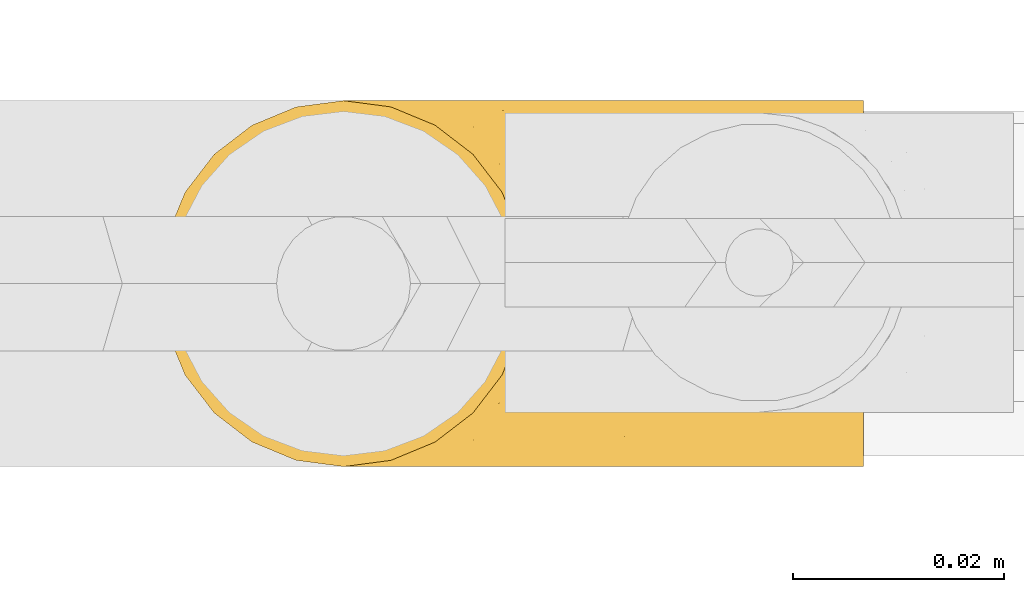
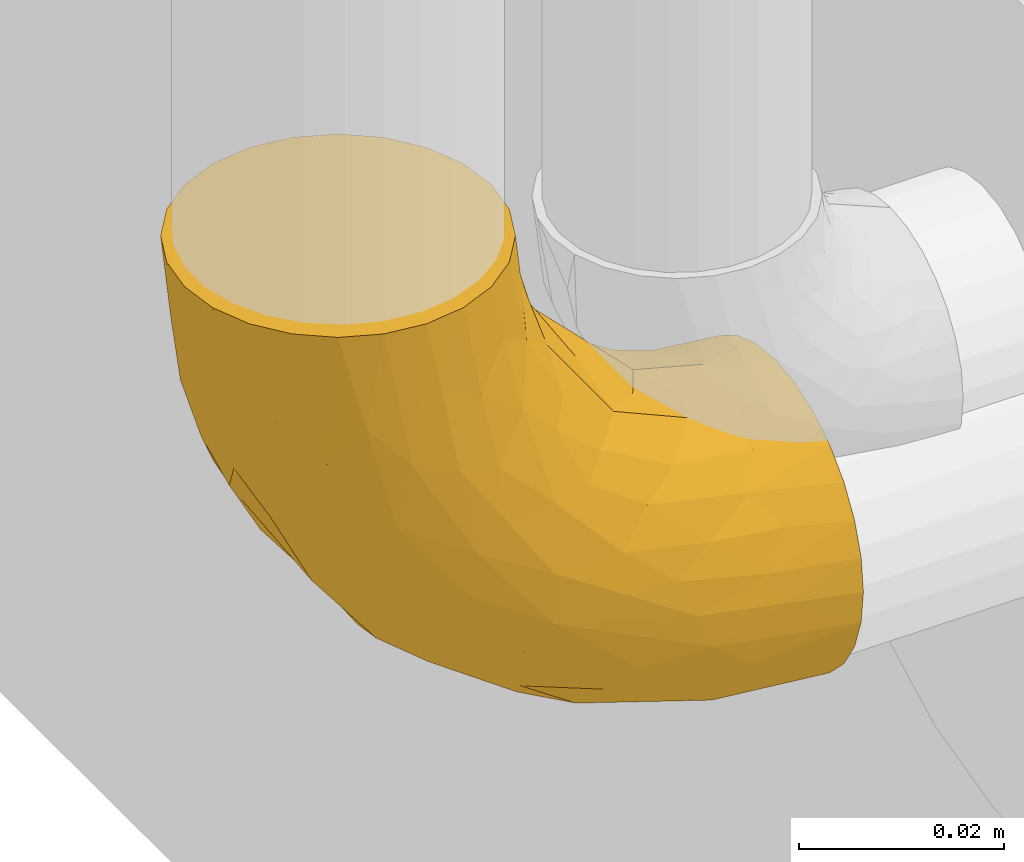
# One storey, part 5 of 30: 1 covering.
"""IFC2X3 building model written with IfcOpenShell, lengths in metres."""

from ifc_helpers import new_model, entity, si_unit, converted_unit, derived_unit, direction, frame, origin, place, context, subcontext, project, spatial, faceted_brep, material, type_object, element, save


model = new_model("IFC2X3")

# Units and contexts
model_context = context("Model", 3, precision=1e-05, world=origin(), true_north=direction((6.123031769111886e-17, 1.0)))
body_context = subcontext(model_context, "Body", "Model", "MODEL_VIEW")
ifc_project = project(units=[si_unit("LENGTHUNIT", "METRE"), si_unit("AREAUNIT", "SQUARE_METRE"), si_unit("VOLUMEUNIT", "CUBIC_METRE"), converted_unit("PLANEANGLEUNIT", "DEGREE", entity("IfcPlaneAngleMeasure", 0.017453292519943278), si_unit("PLANEANGLEUNIT", "RADIAN"), dimensions=[0, 0, 0, 0, 0, 0, 0]), si_unit("MASSUNIT", "GRAM", prefix="KILO"), derived_unit("MASSDENSITYUNIT", [(si_unit("MASSUNIT", "GRAM", prefix="KILO"), 1), (si_unit("LENGTHUNIT", "METRE"), -3)]), derived_unit("IONCONCENTRATIONUNIT", [(si_unit("MASSUNIT", "GRAM", prefix="KILO"), 1), (si_unit("LENGTHUNIT", "METRE"), -3)]), derived_unit("MOMENTOFINERTIAUNIT", [(si_unit("LENGTHUNIT", "METRE"), 4)]), si_unit("TIMEUNIT", "SECOND"), si_unit("FREQUENCYUNIT", "HERTZ"), si_unit("THERMODYNAMICTEMPERATUREUNIT", "DEGREE_CELSIUS"), derived_unit("THERMALTRANSMITTANCEUNIT", [(si_unit("MASSUNIT", "GRAM", prefix="KILO"), 1), (si_unit("THERMODYNAMICTEMPERATUREUNIT", "KELVIN"), -1), (si_unit("TIMEUNIT", "SECOND"), -3)]), derived_unit("THERMALCONDUCTANCEUNIT", [(si_unit("MASSUNIT", "GRAM", prefix="KILO"), 1), (si_unit("THERMODYNAMICTEMPERATUREUNIT", "KELVIN"), -1), (si_unit("TIMEUNIT", "SECOND"), -3), (si_unit("LENGTHUNIT", "METRE"), 1)]), derived_unit("VOLUMETRICFLOWRATEUNIT", [(si_unit("LENGTHUNIT", "METRE", prefix="DECI"), 3), (si_unit("TIMEUNIT", "SECOND"), -1)]), derived_unit("MASSFLOWRATEUNIT", [(si_unit("MASSUNIT", "GRAM", prefix="KILO"), 1), (si_unit("TIMEUNIT", "SECOND"), -1)]), derived_unit("ROTATIONALFREQUENCYUNIT", [(si_unit("TIMEUNIT", "SECOND"), -1)]), si_unit("ELECTRICCURRENTUNIT", "AMPERE"), si_unit("ELECTRICVOLTAGEUNIT", "VOLT"), si_unit("POWERUNIT", "WATT"), si_unit("FORCEUNIT", "NEWTON", prefix="KILO"), si_unit("ILLUMINANCEUNIT", "LUX"), si_unit("LUMINOUSFLUXUNIT", "LUMEN"), si_unit("LUMINOUSINTENSITYUNIT", "CANDELA"), si_unit("ENERGYUNIT", "JOULE"), derived_unit("USERDEFINED", [(si_unit("MASSUNIT", "GRAM", prefix="KILO"), -1), (si_unit("LENGTHUNIT", "METRE"), -2), (si_unit("TIMEUNIT", "SECOND"), 3), (si_unit("LUMINOUSFLUXUNIT", "LUMEN"), 1)]), derived_unit("USERDEFINED", [(si_unit("MASSUNIT", "GRAM", prefix="KILO"), 1), (si_unit("TIMEUNIT", "SECOND"), -3), (si_unit("LENGTHUNIT", "METRE"), 3), (si_unit("ELECTRICCURRENTUNIT", "AMPERE"), -2)]), derived_unit("SOUNDPOWERUNIT", [(si_unit("MASSUNIT", "GRAM", prefix="KILO"), 1), (si_unit("TIMEUNIT", "SECOND"), -3), (si_unit("LENGTHUNIT", "METRE"), 2)]), derived_unit("SOUNDPRESSUREUNIT", [(si_unit("MASSUNIT", "GRAM", prefix="KILO"), 1), (si_unit("LENGTHUNIT", "METRE"), -1), (si_unit("TIMEUNIT", "SECOND"), -2)]), derived_unit("LINEARVELOCITYUNIT", [(si_unit("LENGTHUNIT", "METRE"), 1), (si_unit("TIMEUNIT", "SECOND"), -1)]), si_unit("PRESSUREUNIT", "PASCAL"), derived_unit("USERDEFINED", [(si_unit("MASSUNIT", "GRAM", prefix="KILO"), 1), (si_unit("LENGTHUNIT", "METRE"), -2), (si_unit("TIMEUNIT", "SECOND"), -2)]), derived_unit("LINEARFORCEUNIT", [(si_unit("MASSUNIT", "GRAM", prefix="KILO"), 1), (si_unit("TIMEUNIT", "SECOND"), -2)]), derived_unit("PLANARFORCEUNIT", [(si_unit("MASSUNIT", "GRAM", prefix="KILO"), 1), (si_unit("LENGTHUNIT", "METRE"), -1), (si_unit("TIMEUNIT", "SECOND"), -2)]), derived_unit("SPECIFICHEATCAPACITYUNIT", [(si_unit("THERMODYNAMICTEMPERATUREUNIT", "KELVIN"), -1), (si_unit("LENGTHUNIT", "METRE"), 2), (si_unit("TIMEUNIT", "SECOND"), -2)]), derived_unit("HEATFLUXDENSITYUNIT", [(si_unit("MASSUNIT", "GRAM", prefix="KILO"), 1), (si_unit("TIMEUNIT", "SECOND"), -3)]), derived_unit("HEATINGVALUEUNIT", [(si_unit("LENGTHUNIT", "METRE"), 2), (si_unit("TIMEUNIT", "SECOND"), -2)]), derived_unit("VAPORPERMEABILITYUNIT", [(si_unit("LENGTHUNIT", "METRE"), -1), (si_unit("TIMEUNIT", "SECOND"), 1)]), derived_unit("DYNAMICVISCOSITYUNIT", [(si_unit("MASSUNIT", "GRAM", prefix="KILO"), 1), (si_unit("TIMEUNIT", "SECOND"), -1), (si_unit("LENGTHUNIT", "METRE"), -1)]), derived_unit("THERMALEXPANSIONCOEFFICIENTUNIT", [(si_unit("THERMODYNAMICTEMPERATUREUNIT", "KELVIN"), -1)]), derived_unit("MODULUSOFELASTICITYUNIT", [(si_unit("MASSUNIT", "GRAM", prefix="KILO"), 1), (si_unit("LENGTHUNIT", "METRE"), -1), (si_unit("TIMEUNIT", "SECOND"), -2)]), derived_unit("ISOTHERMALMOISTURECAPACITYUNIT", [(si_unit("MASSUNIT", "GRAM", prefix="KILO"), -1), (si_unit("LENGTHUNIT", "METRE"), 3)]), derived_unit("MOISTUREDIFFUSIVITYUNIT", [(si_unit("TIMEUNIT", "SECOND"), -1), (si_unit("LENGTHUNIT", "METRE"), 2)]), derived_unit("MASSPERLENGTHUNIT", [(si_unit("MASSUNIT", "GRAM", prefix="KILO"), 1), (si_unit("LENGTHUNIT", "METRE"), -1)]), derived_unit("THERMALRESISTANCEUNIT", [(si_unit("MASSUNIT", "GRAM", prefix="KILO"), -1), (si_unit("TIMEUNIT", "SECOND"), 3), (si_unit("THERMODYNAMICTEMPERATUREUNIT", "KELVIN"), 1)]), derived_unit("ACCELERATIONUNIT", [(si_unit("LENGTHUNIT", "METRE"), 1), (si_unit("TIMEUNIT", "SECOND"), -2)]), derived_unit("ANGULARVELOCITYUNIT", [(si_unit("TIMEUNIT", "SECOND"), -1), (si_unit("PLANEANGLEUNIT", "RADIAN"), 1)]), derived_unit("LINEARSTIFFNESSUNIT", [(si_unit("MASSUNIT", "GRAM", prefix="KILO"), 1), (si_unit("TIMEUNIT", "SECOND"), -2)]), derived_unit("WARPINGCONSTANTUNIT", [(si_unit("LENGTHUNIT", "METRE"), 6)]), derived_unit("LINEARMOMENTUNIT", [(si_unit("MASSUNIT", "GRAM", prefix="KILO"), 1), (si_unit("LENGTHUNIT", "METRE"), 1), (si_unit("TIMEUNIT", "SECOND"), -2)]), derived_unit("TORQUEUNIT", [(si_unit("MASSUNIT", "GRAM", prefix="KILO"), 1), (si_unit("LENGTHUNIT", "METRE"), 2), (si_unit("TIMEUNIT", "SECOND"), -2)])], contexts=[model_context])

# Site, building, storey
site_placement = place(None, origin())
site = spatial("IfcSite", under=ifc_project, at=site_placement, Name="Default", CompositionType="ELEMENT")
building_placement = place(site_placement, origin())
building = spatial("IfcBuilding", under=site, at=building_placement, CompositionType="ELEMENT")
storey_placement = place(building_placement, origin())
storey = spatial("IfcBuildingStorey", under=building, at=storey_placement, Name="Niveau 0", CompositionType="ELEMENT", Elevation=-1.949160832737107e-14)

# Covering
ifc_material = material(Name="Matériau du rendu 255-255-255")
covering_type = type_object("IfcCoveringType", Name="Isolation des canalisations:Par défaut", PredefinedType="INSULATION")
covering_placement = place(storey_placement, frame((-20.93528131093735, 1.3561078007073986, -0.36410472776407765)))
element("IfcCovering", 1, at=covering_placement, inside=storey, type_object=covering_type, material=ifc_material, Name="Isolation des canalisations:Par défaut", ObjectType="Isolation des canalisations:Par défaut", PredefinedType="INSULATION", context=body_context, shape_type="Brep", body=[
    faceted_brep([(0.06824527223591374, 0.005382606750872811, -0.061715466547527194), (0.06824527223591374, 0.008130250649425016, -0.06446206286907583), (0.06824527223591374, 0.011419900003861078, -0.0665282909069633), (0.06824527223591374, 0.015086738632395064, -0.06781077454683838), (0.06824527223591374, 0.018945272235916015, -0.06824527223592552), (0.06824527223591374, 0.022807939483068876, -0.06780983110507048), (0.06824527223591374, 0.026475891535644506, -0.06652576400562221), (0.06824527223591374, 0.029765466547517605, -0.06445793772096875), (0.06824527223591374, 0.03251206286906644, -0.06171029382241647), (0.06824527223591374, 0.03457829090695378, -0.058420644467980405), (0.06824527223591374, 0.035860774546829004, -0.054753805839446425), (0.06824527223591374, 0.03629527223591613, -0.0508952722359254), (0.06824527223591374, 0.03585983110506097, -0.04703260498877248), (0.06824527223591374, 0.034575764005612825, -0.04336465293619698), (0.06824527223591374, 0.032507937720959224, -0.04007507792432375), (0.06824527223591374, 0.029760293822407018, -0.03732848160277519), (0.06824527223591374, 0.026470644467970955, -0.03526225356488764), (0.06824527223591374, 0.02280380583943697, -0.03397976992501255), (0.06824527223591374, 0.018945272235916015, -0.03354527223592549), (0.06824527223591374, 0.015082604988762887, -0.03398071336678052), (0.06824527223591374, 0.011414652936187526, -0.0352647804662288), (0.06824527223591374, 0.008125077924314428, -0.03733260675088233), (0.06824527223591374, 0.005378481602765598, -0.04008025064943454), (0.06824527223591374, 0.0033122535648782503, -0.0433699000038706), (0.06824527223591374, 0.0020297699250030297, -0.04703673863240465), (0.06824527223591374, 0.0015952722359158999, -0.05089527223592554), (0.06824527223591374, 0.0020307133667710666, -0.054757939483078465), (0.06824527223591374, 0.003314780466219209, -0.05842589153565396), (0.035704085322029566, 0.023435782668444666, -0.0015952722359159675), (0.03397081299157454, 0.02762027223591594, -0.0015952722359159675), (0.031213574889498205, 0.03121357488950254, -0.0015952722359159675), (0.02762027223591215, 0.033970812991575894, -0.0015952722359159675), (0.023435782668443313, 0.03570408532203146, -0.0015952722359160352), (0.018945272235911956, 0.03629527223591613, -0.0015952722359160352), (0.01445476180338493, 0.03570408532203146, -0.0015952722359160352), (0.010270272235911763, 0.033970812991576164, -0.0015952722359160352), (0.0066769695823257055, 0.03121357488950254, -0.0015952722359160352), (0.0039197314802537, 0.02762027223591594, -0.0015952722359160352), (0.0021864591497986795, 0.023435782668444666, -0.0015952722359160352), (0.0015952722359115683, 0.018945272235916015, -0.0015952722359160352), (0.0021864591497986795, 0.014454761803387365, -0.0015952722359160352), (0.0039197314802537, 0.010270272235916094, -0.0015952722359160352), (0.0066769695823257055, 0.006676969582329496, -0.0015952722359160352), (0.010270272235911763, 0.003919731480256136, -0.0015952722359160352), (0.01445476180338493, 0.0021864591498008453, -0.0015952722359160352), (0.018945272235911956, 0.0015952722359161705, -0.0015952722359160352), (0.023435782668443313, 0.0021864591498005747, -0.0015952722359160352), (0.02762027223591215, 0.003919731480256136, -0.0015952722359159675), (0.031213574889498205, 0.006676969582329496, -0.0015952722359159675), (0.03397081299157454, 0.010270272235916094, -0.0015952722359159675), (0.035704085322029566, 0.014454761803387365, -0.0015952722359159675), (0.03629527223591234, 0.018945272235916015, -0.0015952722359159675), (0.024367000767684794, 0.006555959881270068, -0.044610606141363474), (0.040880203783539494, 0.005439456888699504, -0.055206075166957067), (0.031240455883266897, 0.004103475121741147, -0.04662716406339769), (0.005317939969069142, 0.01574101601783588, -0.022635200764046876), (0.004958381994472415, 0.018945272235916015, -0.018502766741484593), (0.006668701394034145, 0.018945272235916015, -0.027101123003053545), (0.009728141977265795, 0.00907453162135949, -0.02642879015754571), (0.0157609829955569, 0.0072079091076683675, -0.03474610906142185), (0.014206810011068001, 0.005147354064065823, -0.0272488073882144), (0.00477606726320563, 0.012649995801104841, -0.017647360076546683), (0.0059874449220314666, 0.008689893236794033, -0.013004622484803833), (0.03372303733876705, 0.0022082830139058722, -0.042951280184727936), (0.033384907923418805, 0.0015952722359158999, -0.03645563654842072), (0.02490495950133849, 0.0019132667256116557, -0.03141249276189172), (0.05201300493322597, 0.007137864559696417, -0.06144561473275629), (0.03327606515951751, 0.00800033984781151, -0.05371291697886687), (0.017585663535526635, 0.0020764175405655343, -0.018347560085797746), (0.016675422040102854, 0.0034977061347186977, -0.026339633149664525), (0.03669274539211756, 0.014726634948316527, -0.059711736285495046), (0.052045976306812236, 0.013536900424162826, -0.06535510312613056), (0.040907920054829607, 0.010439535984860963, -0.05992934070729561), (0.010004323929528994, 0.005627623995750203, -0.017676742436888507), (0.04937897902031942, 0.0015952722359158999, -0.04714253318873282), (0.04138194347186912, 0.0015952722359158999, -0.041799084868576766), (0.013063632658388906, 0.0031065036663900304, -0.013167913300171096), (0.013097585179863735, 0.013931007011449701, -0.03768974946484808), (0.021058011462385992, 0.015117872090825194, -0.04805807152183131), (0.02491877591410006, 0.011641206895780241, -0.05009999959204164), (0.05549234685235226, 0.018945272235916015, -0.06570855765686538), (0.015418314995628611, 0.010347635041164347, -0.03837572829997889), (0.00810343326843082, 0.01328248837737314, -0.028042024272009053), (0.055995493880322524, 0.010029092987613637, -0.0645991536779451), (0.042739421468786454, 0.018945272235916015, -0.06317184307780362), (0.05979152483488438, 0.0015952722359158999, -0.04921371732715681), (0.051512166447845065, 0.001975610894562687, -0.05179267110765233), (0.05592114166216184, 0.004579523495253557, -0.05932311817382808), (0.024527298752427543, 0.0030418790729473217, -0.036967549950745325), (0.0564246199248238, 0.0028640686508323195, -0.056142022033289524), (0.020046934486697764, 0.004804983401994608, -0.036232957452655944), (0.04390302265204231, 0.003093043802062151, -0.05241841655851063), (0.028041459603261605, 0.0015952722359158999, -0.028458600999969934), (0.022698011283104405, 0.0015952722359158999, -0.02046156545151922), (0.05881212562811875, 0.0015952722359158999, -0.04901890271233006), (0.03192801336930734, 0.018945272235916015, -0.05594789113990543), (0.022537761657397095, 0.009051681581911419, -0.04575145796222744), (0.013892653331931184, 0.018945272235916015, -0.03791253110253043), (0.020626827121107, 0.0015952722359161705, -0.010049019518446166), (0.021116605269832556, 0.018945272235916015, -0.04872393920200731), (0.060126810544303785, 0.009148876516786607, -0.03562046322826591), (0.025545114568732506, 0.00238146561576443, -0.012762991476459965), (0.03816302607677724, 0.008176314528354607, -0.020812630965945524), (0.03369863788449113, 0.007611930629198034, -0.012286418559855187), (0.03585312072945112, 0.005320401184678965, -0.022511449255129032), (0.047583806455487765, 0.0019279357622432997, -0.04260303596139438), (0.05793604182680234, 0.002136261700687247, -0.04539970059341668), (0.051791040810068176, 0.00324715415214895, -0.04014164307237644), (0.02744829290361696, 0.001986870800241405, -0.022043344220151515), (0.0312463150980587, 0.004104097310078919, -0.0176025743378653), (0.05558856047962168, 0.01590243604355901, -0.031224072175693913), (0.06109218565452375, 0.014076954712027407, -0.0334490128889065), (0.059961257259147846, 0.018945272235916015, -0.03132557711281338), (0.045509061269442, 0.004444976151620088, -0.03422892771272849), (0.041544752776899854, 0.002253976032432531, -0.03727571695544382), (0.029493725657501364, 0.004675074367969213, -0.0088873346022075), (0.03852252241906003, 0.01525623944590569, -0.014357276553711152), (0.038514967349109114, 0.018945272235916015, -0.009879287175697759), (0.03659242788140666, 0.015925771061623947, -0.007585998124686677), (0.057971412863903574, 0.005932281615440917, -0.037997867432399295), (0.05019700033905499, 0.007500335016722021, -0.03304464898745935), (0.03603849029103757, 0.012735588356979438, -0.009229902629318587), (0.038175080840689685, 0.011387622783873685, -0.01677085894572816), (0.06050425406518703, 0.003758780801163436, -0.04176616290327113), (0.045253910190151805, 0.010632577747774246, -0.026739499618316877), (0.041414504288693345, 0.0064510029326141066, -0.027451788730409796), (0.05227027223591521, 0.018945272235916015, -0.029264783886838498), (0.04415845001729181, 0.015064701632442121, -0.023249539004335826), (0.04057576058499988, 0.018945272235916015, -0.017570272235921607), (0.03407046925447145, 0.0025144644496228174, -0.028875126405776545), (0.05464264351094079, 0.012455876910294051, -0.031890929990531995), (0.04949521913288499, 0.014233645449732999, -0.02826597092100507), (0.046423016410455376, 0.018945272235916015, -0.02341752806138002), (0.038700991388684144, 0.00404031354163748, -0.029179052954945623), (0.033698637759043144, 0.0302786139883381, -0.01228641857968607), (0.060126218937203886, 0.028736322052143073, -0.0356165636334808), (0.05796574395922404, 0.03195404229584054, -0.037991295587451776), (0.03659242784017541, 0.021964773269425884, -0.007585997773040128), (0.04759427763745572, 0.0359598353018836, -0.04259271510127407), (0.04138194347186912, 0.03629527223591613, -0.041799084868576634), (0.04154972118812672, 0.03562917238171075, -0.03724696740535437), (0.050196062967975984, 0.030383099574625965, -0.033036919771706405), (0.04141450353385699, 0.0314395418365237, -0.027451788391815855), (0.03870907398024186, 0.03385103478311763, -0.029189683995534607), (0.03585365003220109, 0.03257390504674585, -0.02252106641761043), (0.06109515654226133, 0.02380588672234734, -0.03344737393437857), (0.03407046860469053, 0.03537608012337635, -0.028875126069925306), (0.027448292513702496, 0.035903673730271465, -0.02204334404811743), (0.031246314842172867, 0.03378644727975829, -0.017602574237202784), (0.025545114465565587, 0.03550907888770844, -0.012762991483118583), (0.020626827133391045, 0.03629527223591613, -0.01004901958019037), (0.06049677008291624, 0.034129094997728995, -0.0417598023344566), (0.05793180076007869, 0.03575312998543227, -0.045394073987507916), (0.051777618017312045, 0.03464128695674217, -0.04013105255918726), (0.03603849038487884, 0.025154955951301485, -0.009229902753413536), (0.029493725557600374, 0.03321547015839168, -0.008887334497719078), (0.04552472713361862, 0.03343785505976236, -0.034225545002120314), (0.038522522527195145, 0.022634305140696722, -0.014357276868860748), (0.04948512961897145, 0.02365546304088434, -0.028258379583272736), (0.04523640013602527, 0.027243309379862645, -0.026712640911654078), (0.044143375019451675, 0.0228202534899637, -0.023230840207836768), (0.05558905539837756, 0.02198481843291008, -0.031223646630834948), (0.05465211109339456, 0.02542902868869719, -0.031892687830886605), (0.03817508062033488, 0.026502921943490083, -0.016770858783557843), (0.059791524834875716, 0.03629527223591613, -0.04921371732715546), (0.05881212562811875, 0.03629527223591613, -0.04901890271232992), (0.04937897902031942, 0.03629527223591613, -0.04714253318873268), (0.022698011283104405, 0.03629527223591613, -0.02046156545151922), (0.028041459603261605, 0.03629527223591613, -0.028458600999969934), (0.03815555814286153, 0.02971725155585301, -0.020805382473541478), (0.033384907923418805, 0.03629527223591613, -0.03645563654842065), (0.014201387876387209, 0.03274603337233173, -0.027228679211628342), (0.015764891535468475, 0.030676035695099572, -0.03476363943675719), (0.009728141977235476, 0.028816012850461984, -0.026428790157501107), (0.005317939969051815, 0.022149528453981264, -0.022635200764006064), (0.0081034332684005, 0.02460805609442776, -0.02804202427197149), (0.013097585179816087, 0.023959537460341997, -0.037689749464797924), (0.04091580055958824, 0.027456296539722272, -0.059929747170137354), (0.052048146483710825, 0.024358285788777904, -0.06535408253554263), (0.036682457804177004, 0.02316674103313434, -0.05970534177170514), (0.04088029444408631, 0.032454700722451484, -0.05520108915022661), (0.031229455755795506, 0.03379273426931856, -0.04660600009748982), (0.043922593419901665, 0.034799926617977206, -0.05242173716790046), (0.0337578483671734, 0.03568426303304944, -0.04297076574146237), (0.01758332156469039, 0.03581412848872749, -0.018340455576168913), (0.01667542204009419, 0.034392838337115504, -0.02633963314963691), (0.02002725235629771, 0.03308122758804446, -0.03621599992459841), (0.013061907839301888, 0.034783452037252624, -0.013166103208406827), (0.004776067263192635, 0.025240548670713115, -0.01764736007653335), (0.05599323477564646, 0.02786657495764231, -0.06459558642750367), (0.005987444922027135, 0.02920065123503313, -0.013004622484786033), (0.015398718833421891, 0.027538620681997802, -0.0383518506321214), (0.010004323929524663, 0.032262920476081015, -0.01767674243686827), (0.05592223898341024, 0.03331443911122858, -0.05931818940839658), (0.05201579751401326, 0.030757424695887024, -0.06144180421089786), (0.05151520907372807, 0.03591577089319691, -0.051789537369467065), (0.040903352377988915, 0.030163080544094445, -0.057836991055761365), (0.02436700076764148, 0.03133458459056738, -0.044610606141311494), (0.056683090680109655, 0.03503855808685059, -0.0561668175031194), (0.02107082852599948, 0.022776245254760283, -0.04806993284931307), (0.024916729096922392, 0.026257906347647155, -0.05009283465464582), (0.024899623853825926, 0.035975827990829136, -0.031417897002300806), (0.02455161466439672, 0.034842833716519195, -0.03701879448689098), (0.022503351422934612, 0.02884064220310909, -0.04571403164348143), (0.031537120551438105, 0.028622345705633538, -0.0536555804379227)], [[[0, 1, 2, 3, 4, 5, 6, 7, 8, 9, 10, 11, 12, 13, 14, 15, 16, 17, 18, 19, 20, 21, 22, 23, 24, 25, 26, 27]], [[28, 29, 30, 31, 32, 33, 34, 35, 36, 37, 38, 39, 40, 41, 42, 43, 44, 45, 46, 47, 48, 49, 50, 51]], [[52, 53, 54]], [[55, 56, 57]], [[58, 59, 60]], [[61, 58, 62]], [[63, 64, 65]], [[61, 41, 40]], [[66, 53, 67]], [[68, 69, 65]], [[70, 71, 72]], [[62, 73, 42]], [[63, 74, 75, 64]], [[45, 44, 68]], [[69, 68, 76]], [[77, 78, 79]], [[42, 73, 43]], [[80, 4, 3]], [[58, 81, 59]], [[61, 55, 82]], [[71, 2, 83]], [[84, 71, 70]], [[83, 2, 1]], [[3, 71, 80]], [[71, 84, 80]], [[77, 55, 57]], [[2, 71, 3]], [[0, 66, 1]], [[26, 25, 85]], [[63, 86, 74]], [[66, 87, 53]], [[62, 42, 41]], [[63, 65, 88]], [[26, 86, 89]], [[40, 56, 55]], [[73, 60, 76]], [[83, 72, 71]], [[90, 59, 52]], [[40, 55, 61]], [[87, 66, 0]], [[1, 66, 83]], [[87, 0, 27]], [[72, 83, 66]], [[91, 89, 86]], [[53, 87, 91]], [[54, 53, 91]], [[67, 53, 52]], [[63, 54, 91]], [[54, 88, 90]], [[91, 87, 89]], [[65, 64, 92, 93]], [[86, 63, 91]], [[86, 85, 94, 74]], [[26, 85, 86]], [[70, 72, 79]], [[78, 95, 70]], [[67, 79, 72]], [[59, 81, 96]], [[40, 39, 56]], [[77, 57, 97]], [[82, 55, 77]], [[87, 27, 89]], [[26, 89, 27]], [[81, 82, 77]], [[58, 61, 82]], [[68, 65, 93]], [[88, 65, 69]], [[68, 93, 98, 45]], [[76, 68, 44]], [[90, 88, 69]], [[54, 63, 88]], [[60, 90, 69]], [[54, 90, 52]], [[59, 90, 60]], [[82, 81, 58]], [[77, 79, 81]], [[96, 81, 79]], [[44, 43, 76]], [[73, 76, 43]], [[61, 62, 41]], [[73, 62, 58]], [[76, 60, 69]], [[60, 73, 58]], [[70, 79, 78]], [[95, 84, 70]], [[67, 52, 96]], [[78, 97, 99]], [[66, 67, 72]], [[97, 78, 77]], [[78, 99, 95]], [[67, 96, 79]], [[59, 96, 52]], [[100, 21, 20]], [[93, 101, 98]], [[102, 103, 104]], [[98, 101, 46]], [[105, 106, 107]], [[108, 109, 101]], [[110, 111, 112]], [[92, 108, 93]], [[113, 114, 107]], [[47, 115, 48]], [[116, 117, 118]], [[49, 48, 103]], [[119, 100, 120]], [[100, 119, 21]], [[121, 122, 116]], [[119, 120, 113]], [[103, 122, 121]], [[115, 103, 48]], [[119, 107, 123]], [[123, 23, 22]], [[118, 51, 50]], [[23, 106, 24]], [[106, 74, 94]], [[46, 101, 47]], [[115, 101, 109]], [[123, 106, 23]], [[124, 125, 120]], [[19, 18, 112]], [[119, 22, 21]], [[110, 112, 126]], [[111, 20, 19]], [[114, 75, 105]], [[116, 127, 128]], [[122, 127, 116]], [[64, 129, 92]], [[106, 94, 24]], [[111, 100, 20]], [[109, 129, 104]], [[130, 124, 120]], [[130, 120, 100]], [[120, 125, 113]], [[130, 110, 131]], [[102, 124, 122]], [[121, 118, 50]], [[24, 94, 85, 25]], [[128, 117, 116]], [[127, 122, 124]], [[131, 124, 130]], [[131, 132, 127]], [[119, 123, 22]], [[106, 123, 107]], [[108, 101, 93]], [[113, 107, 119]], [[129, 133, 104]], [[125, 133, 113]], [[113, 133, 114]], [[129, 64, 114]], [[75, 74, 105]], [[92, 129, 108]], [[109, 108, 129]], [[46, 45, 98]], [[111, 110, 130]], [[126, 131, 110]], [[124, 131, 127]], [[111, 130, 100]], [[112, 111, 19]], [[50, 49, 121]], [[103, 121, 49]], [[101, 115, 47]], [[103, 115, 109]], [[116, 118, 121]], [[51, 118, 117]], [[133, 125, 104]], [[114, 133, 129]], [[102, 104, 125]], [[103, 109, 104]], [[124, 102, 125]], [[103, 102, 122]], [[114, 64, 75]], [[106, 105, 74]], [[107, 114, 105]], [[132, 131, 126]], [[132, 128, 127]], [[30, 29, 134]], [[135, 15, 136]], [[51, 117, 137]], [[138, 139, 140]], [[141, 135, 136]], [[142, 143, 144]], [[145, 112, 17]], [[146, 147, 148]], [[149, 150, 32]], [[151, 152, 153]], [[134, 29, 154]], [[155, 31, 30]], [[15, 135, 16]], [[149, 32, 31]], [[156, 141, 136]], [[157, 117, 128]], [[158, 159, 160]], [[126, 112, 161]], [[161, 145, 162]], [[155, 149, 31]], [[154, 28, 137]], [[14, 151, 136]], [[15, 14, 136]], [[145, 16, 135]], [[135, 141, 162]], [[14, 13, 151]], [[13, 12, 152]], [[146, 144, 143]], [[143, 140, 146]], [[159, 163, 160]], [[12, 11, 164, 165]], [[12, 165, 152]], [[138, 152, 166]], [[141, 159, 162]], [[155, 134, 148]], [[112, 18, 17]], [[167, 147, 168]], [[144, 169, 142]], [[145, 135, 162]], [[156, 136, 153]], [[141, 142, 159]], [[169, 159, 142]], [[157, 160, 163]], [[157, 128, 160]], [[166, 152, 165]], [[154, 137, 157]], [[157, 163, 154]], [[158, 132, 126]], [[126, 161, 158]], [[152, 151, 13]], [[136, 151, 153]], [[168, 146, 170]], [[149, 147, 167]], [[156, 142, 141]], [[140, 156, 153]], [[143, 142, 156]], [[140, 153, 138]], [[170, 146, 140]], [[148, 147, 149]], [[146, 168, 147]], [[150, 149, 167]], [[150, 33, 32]], [[158, 161, 162]], [[159, 158, 162]], [[160, 132, 158]], [[112, 145, 161]], [[16, 145, 17]], [[134, 154, 163]], [[29, 28, 154]], [[134, 155, 30]], [[149, 155, 148]], [[51, 137, 28]], [[157, 137, 117]], [[140, 143, 156]], [[144, 146, 148]], [[148, 134, 144]], [[169, 134, 163]], [[134, 169, 144]], [[159, 169, 163]], [[139, 138, 166]], [[139, 170, 140]], [[152, 138, 153]], [[160, 128, 132]], [[171, 172, 173]], [[174, 175, 176]], [[177, 178, 179]], [[180, 181, 182]], [[183, 182, 181]], [[184, 33, 150, 167]], [[171, 185, 186]], [[184, 187, 34]], [[174, 38, 188]], [[177, 189, 178]], [[36, 190, 37]], [[176, 175, 191]], [[192, 36, 35]], [[37, 190, 188]], [[174, 176, 57]], [[193, 8, 194]], [[183, 166, 195]], [[175, 174, 188]], [[195, 166, 165, 164]], [[56, 174, 57]], [[7, 194, 8]], [[196, 197, 180]], [[179, 178, 84]], [[9, 193, 198]], [[8, 193, 9]], [[190, 192, 173]], [[179, 95, 199]], [[189, 6, 178]], [[193, 180, 182]], [[6, 189, 7]], [[5, 80, 178]], [[177, 179, 200]], [[201, 170, 183]], [[177, 194, 189]], [[37, 188, 38]], [[178, 6, 5]], [[194, 177, 196]], [[164, 11, 10]], [[187, 192, 35]], [[167, 201, 184]], [[194, 7, 189]], [[180, 193, 194]], [[198, 182, 195]], [[196, 180, 194]], [[181, 180, 197]], [[185, 202, 186]], [[201, 167, 168, 170]], [[201, 202, 185]], [[183, 170, 139, 166]], [[195, 182, 183]], [[164, 10, 195]], [[198, 10, 9]], [[199, 95, 99]], [[200, 199, 176]], [[191, 173, 172]], [[200, 203, 204]], [[174, 56, 38]], [[56, 39, 38]], [[199, 97, 176]], [[182, 198, 193]], [[10, 198, 195]], [[188, 173, 175]], [[191, 175, 173]], [[202, 201, 183]], [[184, 201, 185]], [[187, 184, 185]], [[33, 184, 34]], [[183, 181, 202]], [[186, 181, 197]], [[181, 186, 202]], [[186, 197, 172]], [[191, 203, 200]], [[171, 173, 192]], [[203, 172, 197]], [[200, 176, 191]], [[187, 185, 171]], [[35, 34, 187]], [[192, 190, 36]], [[188, 190, 173]], [[172, 171, 186]], [[187, 171, 192]], [[179, 84, 95]], [[80, 5, 4]], [[80, 84, 178]], [[97, 57, 176]], [[177, 200, 204]], [[179, 199, 200]], [[97, 199, 99]], [[172, 203, 191]], [[204, 197, 196]], [[197, 204, 203]], [[177, 204, 196]]]),
])

save(model, "model.ifc")
